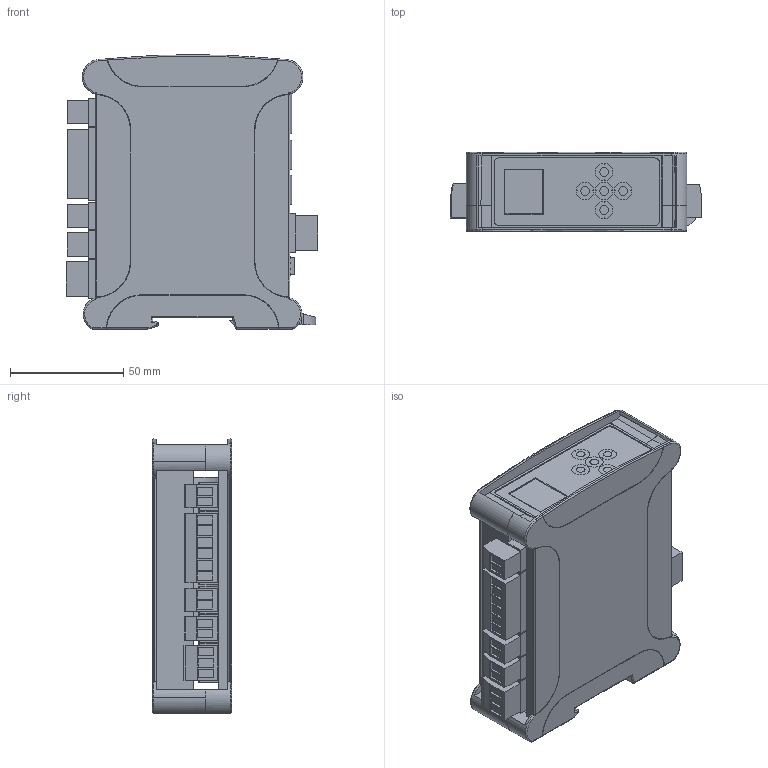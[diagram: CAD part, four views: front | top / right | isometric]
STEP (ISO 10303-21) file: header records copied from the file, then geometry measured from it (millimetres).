
FILE_DESCRIPTION (( 'STEP AP214' ), '1' );
FILE_NAME ('SNS-BUS.STEP', '2023-11-09T09:29:42', ( '' ), ( '' ), 'SwSTEP 2.0', 'SolidWorks 2022', '' );
FILE_SCHEMA (( 'AUTOMOTIVE_DESIGN' ));
Length unit declared in the file: millimetre
Products named in the file (29): J8_semplificata; TMS-PWR_R1_SAUL_ModBUS semplificato; mstba_2.5-2-g-5.08_semplificata; Housing_lock_semplificata; MSTB-2.5-ST-5.08_semplificato; mstba_2.5-6-g-5.08_semplificata; J10_semplificata; J5_semplificato; MSTB-2.5-GEH_semplificata; Front_CTRL_Panel_assieme semplificato; 1757255_08_semplificata; J4_semplificata; Coprifessura fratturabile_Ver 4 semplificata; Coprifessura fratturabile_Ver 3 semplificata; J6_semplificata; 1757242_06_semplificata; J7_semplificata; DT-03731DSI_semplificata; CMX_35_3D001_semplificata; Open CASCADE STEP translator 6.8 1.103.1.1_semplificata; 022057048_semplificata; MSTB-2-5-6-ST-5-08_3D_Assieme semplificato; MSTB_2.5_3-ST-5.08_Semplificata; CMX_35_3D_semplificata; SNS-BUS; mstba_2.5-3-g-5.08_semplificata; 1757284_06_semplificata; MSTB-2-5-2-ST-5-08_3D_Assieme semplificato; J2_semplificata
Assembly tree (35 placements, depth 5):
  SNS-BUS
    CMX_35_3D_semplificata
    TMS-PWR_R1_SAUL_ModBUS semplificato
      Front_CTRL_Panel_assieme semplificato
        DT-03731DSI_semplificata
      J2_semplificata
        1757284_06_semplificata
          mstba_2.5-6-g-5.08_semplificata
      J4_semplificata
        1757242_06_semplificata
          mstba_2.5-2-g-5.08_semplificata
      J5_semplificato
        1757242_06_semplificata
          mstba_2.5-2-g-5.08_semplificata
      J6_semplificata
        1757255_08_semplificata
          mstba_2.5-3-g-5.08_semplificata
      J7_semplificata
        1757242_06_semplificata
          mstba_2.5-2-g-5.08_semplificata
      J10_semplificata
        1757255_08_semplificata
          mstba_2.5-3-g-5.08_semplificata
      J8_semplificata
        022057048_semplificata
          Open CASCADE STEP translator 6.8 1.103.1.1_semplificata
    CMX_35_3D001_semplificata
    MSTB_2.5_3-ST-5.08_Semplificata  x2
    Housing_lock_semplificata
    MSTB-2-5-2-ST-5-08_3D_Assieme semplificato  x3
      MSTB-2.5-GEH_semplificata
    MSTB-2-5-6-ST-5-08_3D_Assieme semplificato
      MSTB-2.5-ST-5.08_semplificato
    Coprifessura fratturabile_Ver 3 semplificata  x2
    Coprifessura fratturabile_Ver 4 semplificata
Bounding box: 111.12 x 35 x 121.18 mm (x, y, z)
Volume: 265705.9 mm3; surface area: 78412.3 mm2
Topology: 20 solids, 26 shells, 714 faces, 1753 edges, 1130 vertices
Faces by surface type: plane 506, cylinder 129, cone 43, bspline 26, sphere 10
Entity records: 21245 total; most frequent: CARTESIAN_POINT 6026, ORIENTED_EDGE 2910, DIRECTION 2707, EDGE_CURVE 1455, LINE 1035, VECTOR 1035, VERTEX_POINT 934, AXIS2_PLACEMENT_3D 836
